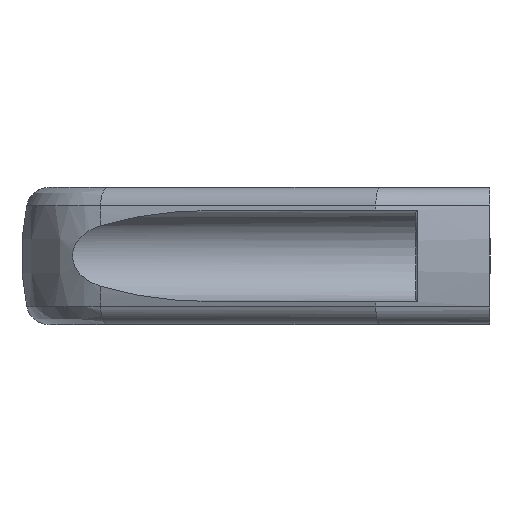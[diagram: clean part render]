
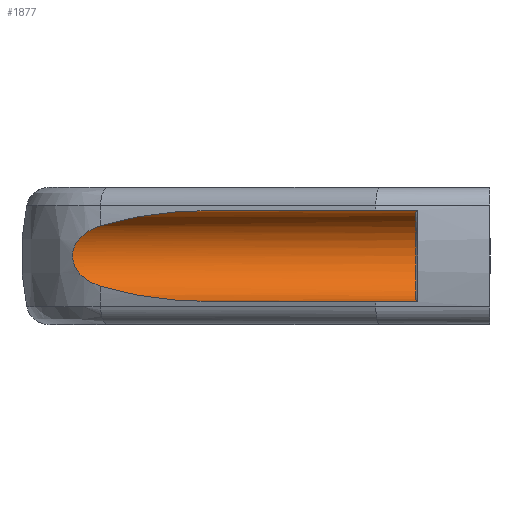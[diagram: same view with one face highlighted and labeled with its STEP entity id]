
A CAD part, left-side view. The second image highlights one B-rep face of the part: STEP entity #1877.
In plain terms, the highlighted cylindrical face has radius 4 mm (diameter 8 mm), a partial arc.
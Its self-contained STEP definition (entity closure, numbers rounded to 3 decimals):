
#44 = ORIENTED_EDGE ( 'NONE', *, *, #3354, .T. ) ;
#82 = CARTESIAN_POINT ( 'NONE',  ( -57.497, 34.09, 2.643 ) ) ;
#123 = ORIENTED_EDGE ( 'NONE', *, *, #1000, .F. ) ;
#205 = EDGE_LOOP ( 'NONE', ( #123, #44, #2851, #2765, #702, #3461, #2064, #628 ) ) ;
#263 = VECTOR ( 'NONE', #1467, 1000. ) ;
#304 = VECTOR ( 'NONE', #1549, 1000. ) ;
#434 = VERTEX_POINT ( 'NONE', #3364 ) ;
#535 = CARTESIAN_POINT ( 'NONE',  ( -60.5, 6.5, 4. ) ) ;
#601 = AXIS2_PLACEMENT_3D ( 'NONE', #2289, #2330, #2357 ) ;
#628 = ORIENTED_EDGE ( 'NONE', *, *, #2837, .T. ) ;
#702 = ORIENTED_EDGE ( 'NONE', *, *, #2315, .T. ) ;
#717 = VERTEX_POINT ( 'NONE', #2800 ) ;
#903 = DIRECTION ( 'NONE',  ( 0., 1., 0. ) ) ;
#997 = LINE ( 'NONE', #1562, #263 ) ;
#1000 = EDGE_CURVE ( 'NONE', #1615, #1538, #1033, .T. ) ;
#1033 = LINE ( 'NONE', #1962, #304 ) ;
#1078 = DIRECTION ( 'NONE',  ( 0., 0., 1. ) ) ;
#1193 = B_SPLINE_CURVE_WITH_KNOTS ( 'NONE', 3,
 ( #2571, #2631, #3163, #3185, #3196, #3208, #3345, #3382 ),
 .UNSPECIFIED., .F., .F.,
 ( 4, 2, 2, 4 ),
 ( -0.011, -0.008, -0.005, 0. ),
 .UNSPECIFIED. ) ;
#1258 = B_SPLINE_CURVE_WITH_KNOTS ( 'NONE', 3,
 ( #1756, #2340, #2329, #2306, #2288, #2268, #2250, #2243, #2233, #2111, #2068, #2056, #2031, #2023, #1988, #1974, #1957, #1826, #1790, #1736, #1567, #1517, #1504, #1474 ),
 .UNSPECIFIED., .F., .F.,
 ( 4, 2, 2, 2, 2, 2, 2, 2, 2, 2, 2, 4 ),
 ( 0., 0.001, 0.002, 0.003, 0.003, 0.004, 0.004, 0.005, 0.005, 0.006, 0.007, 0.008 ),
 .UNSPECIFIED. ) ;
#1278 = DIRECTION ( 'NONE',  ( 0., 1., 0. ) ) ;
#1302 = B_SPLINE_CURVE_WITH_KNOTS ( 'NONE', 3,
 ( #3466, #1707, #3438, #3430, #3423, #3410, #3395, #3376 ),
 .UNSPECIFIED., .F., .F.,
 ( 4, 2, 2, 4 ),
 ( -0.011, -0.008, -0.005, 0. ),
 .UNSPECIFIED. ) ;
#1313 = LINE ( 'NONE', #1502, #2642 ) ;
#1467 = DIRECTION ( 'NONE',  ( 0., -1., 0. ) ) ;
#1474 = CARTESIAN_POINT ( 'NONE',  ( -57.497, 34.09, 2.643 ) ) ;
#1502 = CARTESIAN_POINT ( 'NONE',  ( -60.5, 41.5, 4. ) ) ;
#1504 = CARTESIAN_POINT ( 'NONE',  ( -57.409, 34.396, 2.543 ) ) ;
#1505 = CARTESIAN_POINT ( 'NONE',  ( -57.497, 34.09, -2.643 ) ) ;
#1517 = CARTESIAN_POINT ( 'NONE',  ( -57.312, 34.689, 2.422 ) ) ;
#1525 = DIRECTION ( 'NONE',  ( 0., 1., 0. ) ) ;
#1538 = VERTEX_POINT ( 'NONE', #2778 ) ;
#1549 = DIRECTION ( 'NONE',  ( 0., 1., 0. ) ) ;
#1562 = CARTESIAN_POINT ( 'NONE',  ( -60.5, 22.286, -4. ) ) ;
#1567 = CARTESIAN_POINT ( 'NONE',  ( -57.105, 35.241, 2.123 ) ) ;
#1615 = VERTEX_POINT ( 'NONE', #2239 ) ;
#1707 = CARTESIAN_POINT ( 'NONE',  ( -57.725, 33.282, 2.902 ) ) ;
#1736 = CARTESIAN_POINT ( 'NONE',  ( -56.995, 35.504, 1.942 ) ) ;
#1752 = CARTESIAN_POINT ( 'NONE',  ( -60.5, 41.5, 0. ) ) ;
#1756 = CARTESIAN_POINT ( 'NONE',  ( -57.497, 34.09, -2.643 ) ) ;
#1787 = EDGE_CURVE ( 'NONE', #1960, #717, #1302, .T. ) ;
#1790 = CARTESIAN_POINT ( 'NONE',  ( -56.839, 35.846, 1.617 ) ) ;
#1826 = CARTESIAN_POINT ( 'NONE',  ( -56.789, 35.952, 1.499 ) ) ;
#1877 = ADVANCED_FACE ( 'NONE', ( #2207 ), #2259, .F. ) ;
#1880 = CIRCLE ( 'NONE', #601, 4. ) ;
#1957 = CARTESIAN_POINT ( 'NONE',  ( -56.695, 36.145, 1.243 ) ) ;
#1960 = VERTEX_POINT ( 'NONE', #82 ) ;
#1962 = CARTESIAN_POINT ( 'NONE',  ( -60.5, 41.5, -4. ) ) ;
#1974 = CARTESIAN_POINT ( 'NONE',  ( -56.652, 36.23, 1.104 ) ) ;
#1988 = CARTESIAN_POINT ( 'NONE',  ( -56.58, 36.37, 0.81 ) ) ;
#2023 = CARTESIAN_POINT ( 'NONE',  ( -56.55, 36.427, 0.653 ) ) ;
#2031 = CARTESIAN_POINT ( 'NONE',  ( -56.51, 36.501, 0.331 ) ) ;
#2056 = CARTESIAN_POINT ( 'NONE',  ( -56.5, 36.521, 0.164 ) ) ;
#2064 = ORIENTED_EDGE ( 'NONE', *, *, #3319, .F. ) ;
#2068 = CARTESIAN_POINT ( 'NONE',  ( -56.5, 36.521, -0.17 ) ) ;
#2111 = CARTESIAN_POINT ( 'NONE',  ( -56.511, 36.501, -0.334 ) ) ;
#2171 = VERTEX_POINT ( 'NONE', #535 ) ;
#2207 = FACE_OUTER_BOUND ( 'NONE', #205, .T. ) ;
#2233 = CARTESIAN_POINT ( 'NONE',  ( -56.551, 36.426, -0.654 ) ) ;
#2239 = CARTESIAN_POINT ( 'NONE',  ( -60.5, 22.286, -4. ) ) ;
#2243 = CARTESIAN_POINT ( 'NONE',  ( -56.58, 36.37, -0.812 ) ) ;
#2250 = CARTESIAN_POINT ( 'NONE',  ( -56.689, 36.16, -1.25 ) ) ;
#2259 = CYLINDRICAL_SURFACE ( 'NONE', #2433, 4. ) ;
#2268 = CARTESIAN_POINT ( 'NONE',  ( -56.787, 35.961, -1.508 ) ) ;
#2288 = CARTESIAN_POINT ( 'NONE',  ( -56.995, 35.503, -1.942 ) ) ;
#2289 = CARTESIAN_POINT ( 'NONE',  ( -60.5, 6.5, 0. ) ) ;
#2306 = CARTESIAN_POINT ( 'NONE',  ( -57.105, 35.241, -2.123 ) ) ;
#2315 = EDGE_CURVE ( 'NONE', #434, #717, #1313, .T. ) ;
#2329 = CARTESIAN_POINT ( 'NONE',  ( -57.312, 34.688, -2.422 ) ) ;
#2330 = DIRECTION ( 'NONE',  ( 0., -1., 0. ) ) ;
#2340 = CARTESIAN_POINT ( 'NONE',  ( -57.409, 34.396, -2.543 ) ) ;
#2342 = VERTEX_POINT ( 'NONE', #3025 ) ;
#2353 = VECTOR ( 'NONE', #1278, 1000. ) ;
#2357 = DIRECTION ( 'NONE',  ( 0., 0., 1. ) ) ;
#2433 = AXIS2_PLACEMENT_3D ( 'NONE', #1752, #903, #1078 ) ;
#2440 = LINE ( 'NONE', #2782, #2353 ) ;
#2571 = CARTESIAN_POINT ( 'NONE',  ( -57.497, 34.09, -2.643 ) ) ;
#2631 = CARTESIAN_POINT ( 'NONE',  ( -57.725, 33.282, -2.902 ) ) ;
#2642 = VECTOR ( 'NONE', #1525, 1000. ) ;
#2765 = ORIENTED_EDGE ( 'NONE', *, *, #3360, .T. ) ;
#2770 = EDGE_CURVE ( 'NONE', #2342, #2171, #1880, .T. ) ;
#2778 = CARTESIAN_POINT ( 'NONE',  ( -60.5, 24.145, -4. ) ) ;
#2782 = CARTESIAN_POINT ( 'NONE',  ( -60.5, 22.286, 4. ) ) ;
#2800 = CARTESIAN_POINT ( 'NONE',  ( -60.5, 24.145, 4. ) ) ;
#2837 = EDGE_CURVE ( 'NONE', #3414, #1538, #1193, .T. ) ;
#2851 = ORIENTED_EDGE ( 'NONE', *, *, #2770, .T. ) ;
#3025 = CARTESIAN_POINT ( 'NONE',  ( -60.5, 6.5, -4. ) ) ;
#3163 = CARTESIAN_POINT ( 'NONE',  ( -57.96, 32.462, -3.104 ) ) ;
#3185 = CARTESIAN_POINT ( 'NONE',  ( -58.441, 30.811, -3.442 ) ) ;
#3196 = CARTESIAN_POINT ( 'NONE',  ( -58.687, 29.978, -3.576 ) ) ;
#3208 = CARTESIAN_POINT ( 'NONE',  ( -59.438, 27.481, -3.895 ) ) ;
#3319 = EDGE_CURVE ( 'NONE', #3414, #1960, #1258, .T. ) ;
#3345 = CARTESIAN_POINT ( 'NONE',  ( -59.958, 25.814, -4. ) ) ;
#3354 = EDGE_CURVE ( 'NONE', #1615, #2342, #997, .T. ) ;
#3360 = EDGE_CURVE ( 'NONE', #2171, #434, #2440, .T. ) ;
#3364 = CARTESIAN_POINT ( 'NONE',  ( -60.5, 22.286, 4. ) ) ;
#3376 = CARTESIAN_POINT ( 'NONE',  ( -60.5, 24.145, 4. ) ) ;
#3382 = CARTESIAN_POINT ( 'NONE',  ( -60.5, 24.145, -4. ) ) ;
#3395 = CARTESIAN_POINT ( 'NONE',  ( -59.958, 25.814, 4. ) ) ;
#3410 = CARTESIAN_POINT ( 'NONE',  ( -59.438, 27.481, 3.895 ) ) ;
#3414 = VERTEX_POINT ( 'NONE', #1505 ) ;
#3423 = CARTESIAN_POINT ( 'NONE',  ( -58.687, 29.978, 3.576 ) ) ;
#3430 = CARTESIAN_POINT ( 'NONE',  ( -58.441, 30.811, 3.442 ) ) ;
#3438 = CARTESIAN_POINT ( 'NONE',  ( -57.96, 32.462, 3.104 ) ) ;
#3461 = ORIENTED_EDGE ( 'NONE', *, *, #1787, .F. ) ;
#3466 = CARTESIAN_POINT ( 'NONE',  ( -57.497, 34.09, 2.643 ) ) ;
